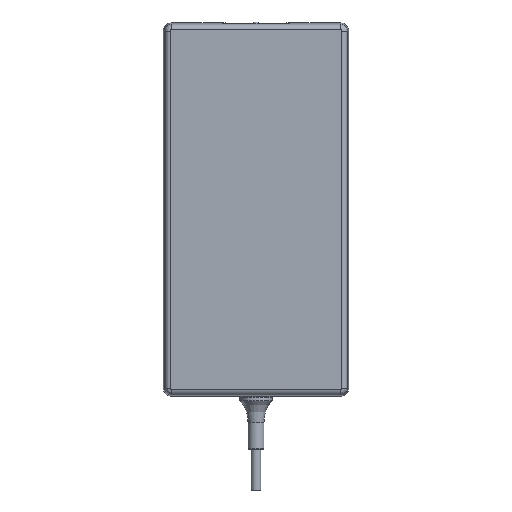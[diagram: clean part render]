
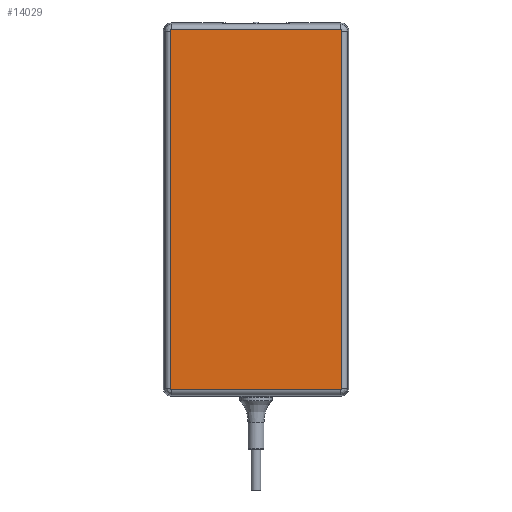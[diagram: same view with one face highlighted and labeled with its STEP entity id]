
A CAD part, front view. The second image highlights one B-rep face of the part: STEP entity #14029.
In plain terms, the highlighted planar face has unit normal (0, -1, 0).
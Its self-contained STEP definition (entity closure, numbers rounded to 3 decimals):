
#10911=CARTESIAN_POINT('',(31.25,0.,-3.));
#10912=DIRECTION('',(0.,1.,0.));
#10913=DIRECTION('',(0.,0.,1.));
#10914=AXIS2_PLACEMENT_3D('',#10911,#10912,#10913);
#10916=CARTESIAN_POINT('',(31.25,0.,-135.));
#10917=DIRECTION('',(0.,1.,0.));
#10918=DIRECTION('',(1.,0.,0.));
#10919=AXIS2_PLACEMENT_3D('',#10916,#10917,#10918);
#10921=CARTESIAN_POINT('',(-31.25,0.,-135.));
#10922=DIRECTION('',(0.,1.,0.));
#10923=DIRECTION('',(0.,0.,-1.));
#10924=AXIS2_PLACEMENT_3D('',#10921,#10922,#10923);
#10926=CARTESIAN_POINT('',(-31.25,0.,-3.));
#10927=DIRECTION('',(0.,1.,0.));
#10928=DIRECTION('',(-1.,0.,0.));
#10929=AXIS2_PLACEMENT_3D('',#10926,#10927,#10928);
#10946=DIRECTION('',(-1.,0.,0.));
#10947=VECTOR('',#10946,62.5);
#10948=CARTESIAN_POINT('',(31.25,0.,
-2.527));
#10949=LINE('',#10948,#10947);
#10969=DIRECTION('',(0.,0.,-1.));
#10970=VECTOR('',#10969,132.);
#10971=CARTESIAN_POINT('',(-31.723,0.,
-3.));
#10972=LINE('',#10971,#10970);
#10992=DIRECTION('',(1.,0.,0.));
#10993=VECTOR('',#10992,62.5);
#10994=CARTESIAN_POINT('',(-31.25,0.,
-135.473));
#10995=LINE('',#10994,#10993);
#11015=DIRECTION('',(0.,0.,1.));
#11016=VECTOR('',#11015,132.);
#11017=CARTESIAN_POINT('',(31.723,0.,-135.));
#11018=LINE('',#11017,#11016);
#13410=CARTESIAN_POINT('',(31.25,0.,
-2.527));
#13411=CARTESIAN_POINT('',(31.723,0.,
-3.));
#13412=VERTEX_POINT('',#13410);
#13413=VERTEX_POINT('',#13411);
#13414=CARTESIAN_POINT('',(31.723,0.,-135.));
#13415=VERTEX_POINT('',#13414);
#13416=CARTESIAN_POINT('',(31.25,0.,
-135.473));
#13417=VERTEX_POINT('',#13416);
#13418=CARTESIAN_POINT('',(-31.25,0.,
-135.473));
#13419=VERTEX_POINT('',#13418);
#13420=CARTESIAN_POINT('',(-31.723,0.,
-135.));
#13421=VERTEX_POINT('',#13420);
#13422=CARTESIAN_POINT('',(-31.723,0.,
-3.));
#13423=VERTEX_POINT('',#13422);
#13424=CARTESIAN_POINT('',(-31.25,0.,
-2.527));
#13425=VERTEX_POINT('',#13424);
#14006=CARTESIAN_POINT('',(-34.25,0.,0.));
#14007=DIRECTION('',(0.,-1.,0.));
#14008=DIRECTION('',(1.,0.,0.));
#14009=AXIS2_PLACEMENT_3D('',#14006,#14007,#14008);
#14010=PLANE('',#14009);
#14012=ORIENTED_EDGE('',*,*,#14011,.T.);
#14014=ORIENTED_EDGE('',*,*,#14013,.F.);
#14016=ORIENTED_EDGE('',*,*,#14015,.T.);
#14018=ORIENTED_EDGE('',*,*,#14017,.F.);
#14020=ORIENTED_EDGE('',*,*,#14019,.T.);
#14022=ORIENTED_EDGE('',*,*,#14021,.F.);
#14024=ORIENTED_EDGE('',*,*,#14023,.T.);
#14026=ORIENTED_EDGE('',*,*,#14025,.F.);
#14027=EDGE_LOOP('',(#14012,#14014,#14016,#14018,#14020,#14022,#14024,#14026));
#14028=FACE_OUTER_BOUND('',#14027,.F.);
#14029=ADVANCED_FACE('',(#14028),#14010,.T.);
#10915=CIRCLE('',#10914,0.473);
#10920=CIRCLE('',#10919,0.473);
#10925=CIRCLE('',#10924,0.473);
#10930=CIRCLE('',#10929,0.473);
#14011=EDGE_CURVE('',#13412,#13413,#10915,.T.);
#14013=EDGE_CURVE('',#13415,#13413,#11018,.T.);
#14015=EDGE_CURVE('',#13415,#13417,#10920,.T.);
#14017=EDGE_CURVE('',#13419,#13417,#10995,.T.);
#14019=EDGE_CURVE('',#13419,#13421,#10925,.T.);
#14021=EDGE_CURVE('',#13423,#13421,#10972,.T.);
#14023=EDGE_CURVE('',#13423,#13425,#10930,.T.);
#14025=EDGE_CURVE('',#13412,#13425,#10949,.T.);
